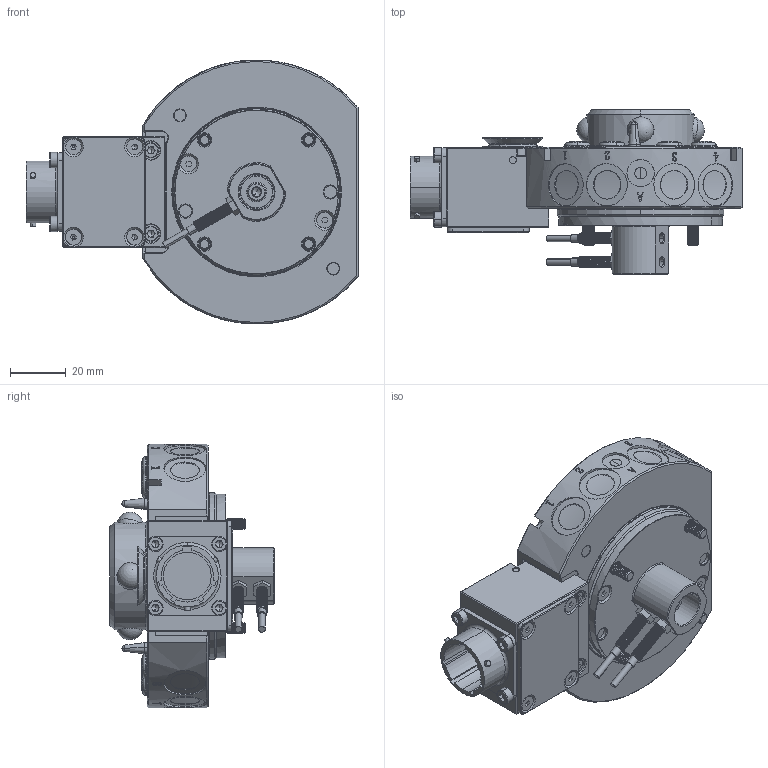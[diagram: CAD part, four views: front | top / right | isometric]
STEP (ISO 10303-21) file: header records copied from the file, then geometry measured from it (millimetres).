
FILE_DESCRIPTION (( 'STEP AP214' ), '1' );
FILE_NAME ('蚾饜聆彸1.0.STEP', '2020-10-16T04:42:38', ( '' ), ( '' ), 'SwSTEP 2.0', 'SolidWorks 2018', '' );
FILE_SCHEMA (( 'AUTOMOTIVE_DESIGN' ));
Length unit declared in the file: millimetre
Products named in the file (1): 蚾饜聆彸1.0
Bounding box: 119.5 x 59.35 x 95 mm (x, y, z)
Volume: 213636.4 mm3; surface area: 41130.8 mm2
Topology: 5 solids, 72 shells, 3019 faces, 7291 edges, 4613 vertices
Faces by surface type: plane 1008, cylinder 751, cone 731, bspline 367, torus 150, sphere 12
Entity records: 143409 total; most frequent: CARTESIAN_POINT 43811, ORIENTED_EDGE 14494, DIRECTION 13729, EDGE_CURVE 7247, AXIS2_PLACEMENT_3D 5195, VERTEX_POINT 4601, LINE 3339, VECTOR 3339
